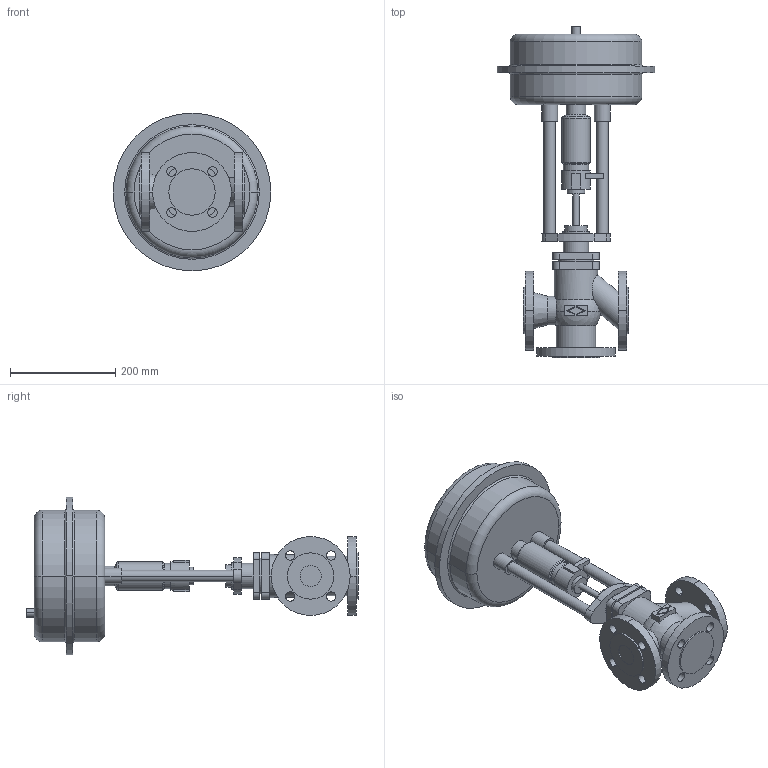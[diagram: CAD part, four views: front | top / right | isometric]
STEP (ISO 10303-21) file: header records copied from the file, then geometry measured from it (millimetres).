
FILE_DESCRIPTION(('OneSpaceDesigner STEP Export'),'2;1');
FILE_NAME('c000000673.stp','2006-09-19T10:07:24',(''),(''),'OneSpace Designer STEP processor for AP214 (Solid Model)','OneSpace Designer 13.20A 18-Aug-2005 (C) CoCreate Software GmbH','');
FILE_SCHEMA(('AUTOMOTIVE_DESIGN { 1 0 10303 214 1 1 1 1 }'));
Length unit declared in the file: millimetre
Products named in the file (2): 1; 2
Bounding box: 300 x 631.1 x 300 mm (x, y, z)
Volume: 9645043.3 mm3; surface area: 534120.8 mm2
Topology: 2 solids, 2 shells, 203 faces, 489 edges, 318 vertices
Faces by surface type: cylinder 96, plane 81, torus 16, cone 6, sphere 4
Entity records: 5492 total; most frequent: CARTESIAN_POINT 1095, ORIENTED_EDGE 978, DIRECTION 812, EDGE_CURVE 489, VERTEX_POINT 318, AXIS2_PLACEMENT_3D 296, EDGE_LOOP 255, VECTOR 220
